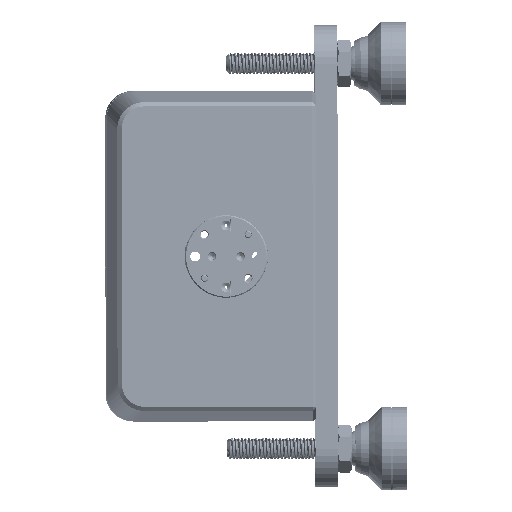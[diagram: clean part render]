
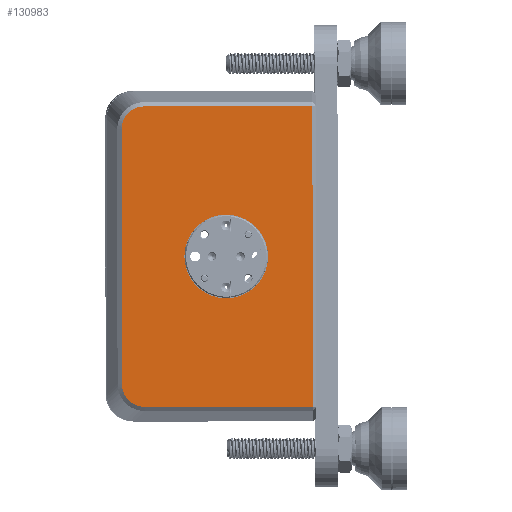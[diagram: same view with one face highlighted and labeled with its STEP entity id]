
A CAD part, left-side view. The second image highlights one B-rep face of the part: STEP entity #130983.
In plain terms, the highlighted planar face has unit normal (-1, -0.002, -0.001).
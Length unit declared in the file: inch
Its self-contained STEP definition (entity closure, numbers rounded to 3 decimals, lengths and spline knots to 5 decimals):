
#649 = CARTESIAN_POINT ( 'NONE',  ( -1.59283, -7.61473, -1.69728 ) ) ;
#1433 = DIRECTION ( 'NONE',  ( -0.002, 1., -0.001 ) ) ;
#6143 = CARTESIAN_POINT ( 'NONE',  ( -1.59322, -7.61374, -0.93729 ) ) ;
#6373 = VECTOR ( 'NONE', #84725, 39.37008 ) ;
#14497 = ORIENTED_EDGE ( 'NONE', *, *, #123407, .T. ) ;
#19675 = CARTESIAN_POINT ( 'NONE',  ( -1.59489, -6.87131, 0.04683 ) ) ;
#25736 = CARTESIAN_POINT ( 'NONE',  ( -1.59381, -6.69203, -2.5801 ) ) ;
#35968 = EDGE_CURVE ( 'NONE', #264987, #153384, #41093, .T. ) ;
#36228 = DIRECTION ( 'NONE',  ( 0.002, -1., 0.001 ) ) ;
#41093 = CIRCLE ( 'NONE', #169519, 0.38 ) ;
#46606 = CARTESIAN_POINT ( 'NONE',  ( -1.59511, -6.70421, -0.03361 ) ) ;
#47689 = VECTOR ( 'NONE', #413927, 39.37008 ) ;
#56616 = DIRECTION ( 'NONE',  ( -0.001, 0.001, 1. ) ) ;
#57033 = CARTESIAN_POINT ( 'NONE',  ( -1.59391, -6.66566, -2.47467 ) ) ;
#58812 = CIRCLE ( 'NONE', #151488, 0.38 ) ;
#65848 = CARTESIAN_POINT ( 'NONE',  ( -1.59365, -6.76936, -2.65723 ) ) ;
#72133 = VERTEX_POINT ( 'NONE', #350722 ) ;
#79697 = DIRECTION ( 'NONE',  ( -0.001, 0.001, 1. ) ) ;
#84513 = CARTESIAN_POINT ( 'NONE',  ( -1.59513, -6.66802, -0.10736 ) ) ;
#84725 = DIRECTION ( 'NONE',  ( -0.001, 0.001, 1. ) ) ;
#86328 = VERTEX_POINT ( 'NONE', #103332 ) ;
#93418 = CARTESIAN_POINT ( 'NONE',  ( -1.59489, -6.87131, 0.04683 ) ) ;
#100510 = VECTOR ( 'NONE', #1433, 39.37008 ) ;
#103332 = CARTESIAN_POINT ( 'NONE',  ( -1.59391, -6.66566, -2.47467 ) ) ;
#110363 = CARTESIAN_POINT ( 'NONE',  ( -1.59347, -6.87485, -2.68332 ) ) ;
#117982 = CARTESIAN_POINT ( 'NONE',  ( -1.59511, -6.66266, -0.16236 ) ) ;
#123407 = EDGE_CURVE ( 'NONE', #72133, #441327, #182979, .T. ) ;
#128428 = CARTESIAN_POINT ( 'NONE',  ( -1.59352, -6.84731, -2.68336 ) ) ;
#128836 = VERTEX_POINT ( 'NONE', #110363 ) ;
#130983 = ADVANCED_FACE ( 'NONE', ( #363720, #196115 ), #399471, .F. ) ;
#139869 = LINE ( 'NONE', #374619, #100510 ) ;
#151442 = CARTESIAN_POINT ( 'NONE',  ( -1.59513, -6.66262, -0.13482 ) ) ;
#151488 = AXIS2_PLACEMENT_3D ( 'NONE', #268784, #396233, #56616 ) ;
#151918 = VERTEX_POINT ( 'NONE', #93418 ) ;
#153384 = VERTEX_POINT ( 'NONE', #649 ) ;
#154288 = VERTEX_POINT ( 'NONE', #384040 ) ;
#154445 = EDGE_CURVE ( 'NONE', #151918, #154288, #249184, .T. ) ;
#163621 = CARTESIAN_POINT ( 'NONE',  ( -1.59253, -7.48101, -2.68254 ) ) ;
#169519 = AXIS2_PLACEMENT_3D ( 'NONE', #421478, #287403, #79697 ) ;
#177628 = B_SPLINE_CURVE_WITH_KNOTS ( 'NONE', 3,
 ( #57033, #405430, #367541, #25736, #235691, #371932, #65848, #430124, #128428, #197700 ),
 .UNSPECIFIED., .F., .F.,
 ( 4, 2, 2, 2, 4 ),
 ( 0., 0.25, 0.5, 0.75, 1. ),
 .UNSPECIFIED. ) ;
#182979 = LINE ( 'NONE', #390831, #6373 ) ;
#196115 = FACE_OUTER_BOUND ( 'NONE', #293828, .T. ) ;
#197700 = CARTESIAN_POINT ( 'NONE',  ( -1.59347, -6.87485, -2.68332 ) ) ;
#210523 = EDGE_CURVE ( 'NONE', #86328, #128836, #177628, .T. ) ;
#234118 = CARTESIAN_POINT ( 'NONE',  ( -1.59324, -7.47924, -1.31746 ) ) ;
#235691 = CARTESIAN_POINT ( 'NONE',  ( -1.59378, -6.70755, -2.60331 ) ) ;
#240226 = AXIS2_PLACEMENT_3D ( 'NONE', #234118, #325776, #260959 ) ;
#249184 = B_SPLINE_CURVE_WITH_KNOTS ( 'NONE', 3,
 ( #19675, #390613, #352676, #258694, #252161, #46606, #292233, #84513, #151442, #117982 ),
 .UNSPECIFIED., .F., .F.,
 ( 4, 2, 2, 2, 4 ),
 ( 0., 0.25, 0.5, 0.75, 1. ),
 .UNSPECIFIED. ) ;
#252161 = CARTESIAN_POINT ( 'NONE',  ( -1.59507, -6.74267, 0.00494 ) ) ;
#252947 = CARTESIAN_POINT ( 'NONE',  ( -1.59451, -6.66416, -1.31852 ) ) ;
#258694 = CARTESIAN_POINT ( 'NONE',  ( -1.59505, -6.76588, 0.02046 ) ) ;
#260959 = DIRECTION ( 'NONE',  ( 0.001, -0.001, -1. ) ) ;
#264987 = VERTEX_POINT ( 'NONE', #6143 ) ;
#266115 = ORIENTED_EDGE ( 'NONE', *, *, #357616, .T. ) ;
#266904 = ORIENTED_EDGE ( 'NONE', *, *, #396692, .F. ) ;
#268784 = CARTESIAN_POINT ( 'NONE',  ( -1.59303, -7.61424, -1.31728 ) ) ;
#279877 = ORIENTED_EDGE ( 'NONE', *, *, #154445, .T. ) ;
#284266 = ORIENTED_EDGE ( 'NONE', *, *, #296740, .T. ) ;
#287403 = DIRECTION ( 'NONE',  ( -1., -0.002, -0.001 ) ) ;
#292233 = CARTESIAN_POINT ( 'NONE',  ( -1.59513, -6.68876, -0.05687 ) ) ;
#293828 = EDGE_LOOP ( 'NONE', ( #325392, #368550, #14497, #266115, #279877, #284266 ) ) ;
#296740 = EDGE_CURVE ( 'NONE', #154288, #86328, #351239, .T. ) ;
#300957 = ORIENTED_EDGE ( 'NONE', *, *, #35968, .F. ) ;
#308835 = LINE ( 'NONE', #163621, #384439 ) ;
#325392 = ORIENTED_EDGE ( 'NONE', *, *, #210523, .T. ) ;
#325776 = DIRECTION ( 'NONE',  ( 1., 0.002, 0.001 ) ) ;
#329639 = CARTESIAN_POINT ( 'NONE',  ( -1.59251, -8.39746, 0.04881 ) ) ;
#347633 = EDGE_CURVE ( 'NONE', #128836, #72133, #308835, .T. ) ;
#350722 = CARTESIAN_POINT ( 'NONE',  ( -1.59109, -8.401, -2.68134 ) ) ;
#351239 = LINE ( 'NONE', #252947, #47689 ) ;
#352676 = CARTESIAN_POINT ( 'NONE',  ( -1.59498, -6.81633, 0.04132 ) ) ;
#357616 = EDGE_CURVE ( 'NONE', #441327, #151918, #139869, .T. ) ;
#363720 = FACE_BOUND ( 'NONE', #417365, .T. ) ;
#367541 = CARTESIAN_POINT ( 'NONE',  ( -1.59387, -6.67116, -2.52965 ) ) ;
#368550 = ORIENTED_EDGE ( 'NONE', *, *, #347633, .T. ) ;
#371932 = CARTESIAN_POINT ( 'NONE',  ( -1.5937, -6.7461, -2.64177 ) ) ;
#374619 = CARTESIAN_POINT ( 'NONE',  ( -1.59395, -7.47747, 0.04762 ) ) ;
#384040 = CARTESIAN_POINT ( 'NONE',  ( -1.59511, -6.66266, -0.16236 ) ) ;
#384439 = VECTOR ( 'NONE', #36228, 39.37008 ) ;
#390613 = CARTESIAN_POINT ( 'NONE',  ( -1.59494, -6.84382, 0.0468 ) ) ;
#390831 = CARTESIAN_POINT ( 'NONE',  ( -1.5918, -8.39923, -1.31627 ) ) ;
#396233 = DIRECTION ( 'NONE',  ( -1., -0.002, -0.001 ) ) ;
#396692 = EDGE_CURVE ( 'NONE', #153384, #264987, #58812, .T. ) ;
#399471 = PLANE ( 'NONE',  #240226 ) ;
#405430 = CARTESIAN_POINT ( 'NONE',  ( -1.59389, -6.66569, -2.50216 ) ) ;
#413927 = DIRECTION ( 'NONE',  ( 0.001, -0.001, -1. ) ) ;
#417365 = EDGE_LOOP ( 'NONE', ( #300957, #266904 ) ) ;
#421478 = CARTESIAN_POINT ( 'NONE',  ( -1.59303, -7.61424, -1.31728 ) ) ;
#430124 = CARTESIAN_POINT ( 'NONE',  ( -1.59356, -6.81985, -2.67797 ) ) ;
#441327 = VERTEX_POINT ( 'NONE', #329639 ) ;
